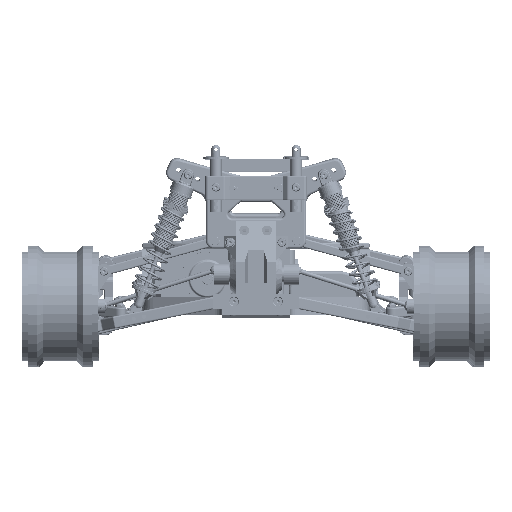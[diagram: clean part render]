
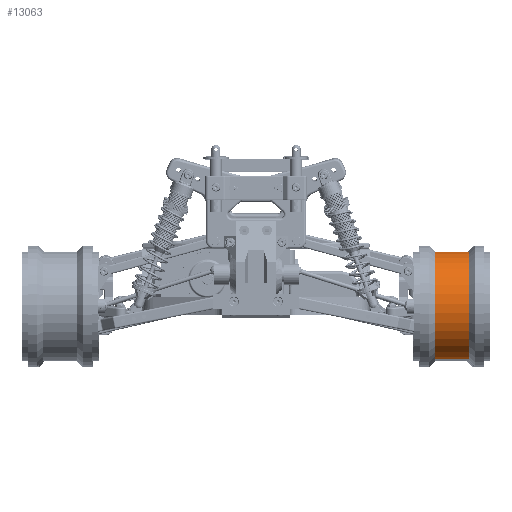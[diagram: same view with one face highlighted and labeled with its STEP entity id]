
A CAD part, left-side view. The second image highlights one B-rep face of the part: STEP entity #13063.
In plain terms, the highlighted cylindrical face has radius 36 mm (diameter 72 mm), a partial arc.
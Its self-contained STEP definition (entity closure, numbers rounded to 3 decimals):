
#13063=ADVANCED_FACE('',(#26337),#26338,.T.);
#26337=FACE_OUTER_BOUND('',#48441,.T.);
#26338=CYLINDRICAL_SURFACE('',#48442,36.0);
#48441=EDGE_LOOP('',(#84670,#84671,#84672,#84673));
#48442=AXIS2_PLACEMENT_3D('',#84674,#84675,#84676);
#84670=ORIENTED_EDGE('',*,*,#112983,.F.);
#84671=ORIENTED_EDGE('',*,*,#121910,.F.);
#84672=ORIENTED_EDGE('',*,*,#112985,.F.);
#84673=ORIENTED_EDGE('',*,*,#119216,.F.);
#84674=CARTESIAN_POINT('',(0.0,0.0,0.0));
#84675=DIRECTION('',(-0.0,1.0,0.0));
#84676=DIRECTION('',(0.0,0.0,-1.0));
#112983=EDGE_CURVE('',#130837,#130838,#130839,.T.);
#112985=EDGE_CURVE('',#130840,#130842,#130843,.T.);
#119216=EDGE_CURVE('',#130838,#130840,#141418,.T.);
#121910=EDGE_CURVE('',#130842,#130837,#145512,.T.);
#130837=VERTEX_POINT('',#157632);
#130838=VERTEX_POINT('',#157633);
#130839=LINE('',#157634,#157635);
#130840=VERTEX_POINT('',#157636);
#130842=VERTEX_POINT('',#157638);
#130843=LINE('',#157639,#157640);
#141418=CIRCLE('',#184846,36.0);
#145512=CIRCLE('',#205061,36.0);
#157632=CARTESIAN_POINT('',(0.0,-19.0,-36.0));
#157633=CARTESIAN_POINT('',(0.,3.0,-36.0));
#157634=CARTESIAN_POINT('',(0.,0.0,-36.0));
#157635=VECTOR('',#231620,1.0);
#157636=CARTESIAN_POINT('',(0.0,3.0,36.0));
#157638=CARTESIAN_POINT('',(0.,-19.0,36.0));
#157639=CARTESIAN_POINT('',(0.,0.0,36.0));
#157640=VECTOR('',#231624,1.0);
#184846=AXIS2_PLACEMENT_3D('',#240100,#240101,#240102);
#205061=AXIS2_PLACEMENT_3D('',#243622,#243623,#243624);
#231620=DIRECTION('',(-0.0,1.0,0.0));
#231624=DIRECTION('',(-0.0,-1.0,0.0));
#240100=CARTESIAN_POINT('',(0.0,3.0,0.0));
#240101=DIRECTION('',(0.0,1.0,0.0));
#240102=DIRECTION('',(0.0,0.0,1.0));
#243622=CARTESIAN_POINT('',(0.0,-19.0,0.0));
#243623=DIRECTION('',(0.0,-1.0,0.0));
#243624=DIRECTION('',(0.0,0.0,-1.0));
